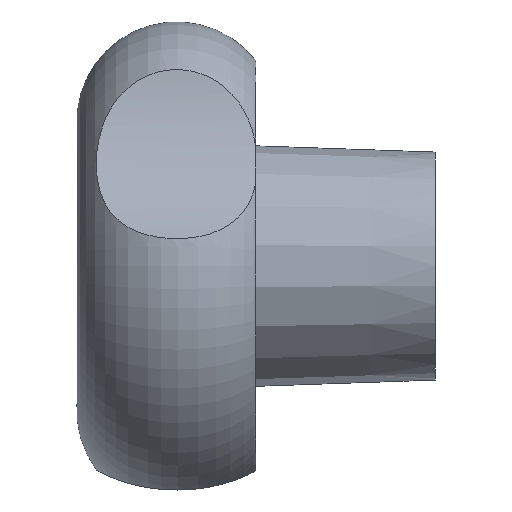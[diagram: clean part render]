
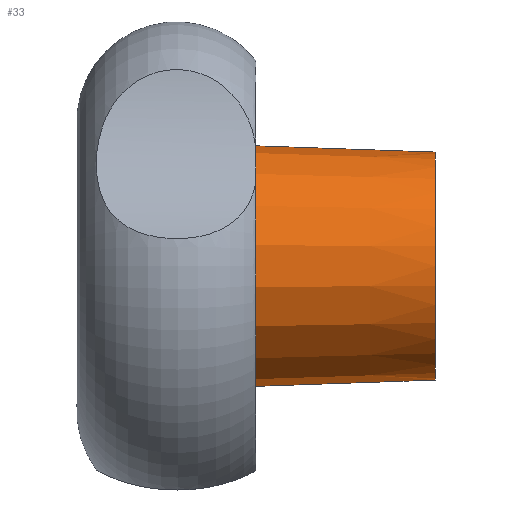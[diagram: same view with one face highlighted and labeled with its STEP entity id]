
A CAD part, left-side view. The second image highlights one B-rep face of the part: STEP entity #33.
In plain terms, the highlighted conical face has half-angle 2 degrees and reference radius 7.561 mm.
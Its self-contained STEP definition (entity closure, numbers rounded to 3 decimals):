
#7 = LINE ( 'NONE', #139, #825 ) ;
#26 = VERTEX_POINT ( 'NONE', #741 ) ;
#27 = DIRECTION ( 'NONE',  ( 0., 0.999, -0.035 ) ) ;
#33 = ADVANCED_FACE ( 'NONE', ( #805 ), #448, .T. ) ;
#35 = DIRECTION ( 'NONE',  ( 0., -1., 0. ) ) ;
#139 = CARTESIAN_POINT ( 'NONE',  ( 0., 16.052, 7.561 ) ) ;
#147 = EDGE_CURVE ( 'NONE', #376, #26, #321, .T. ) ;
#206 = VERTEX_POINT ( 'NONE', #232 ) ;
#232 = CARTESIAN_POINT ( 'NONE',  ( 0., 0., 7. ) ) ;
#311 = EDGE_CURVE ( 'NONE', #206, #1247, #7, .T. ) ;
#318 = DIRECTION ( 'NONE',  ( 0., 0., 1. ) ) ;
#321 = LINE ( 'NONE', #862, #611 ) ;
#376 = VERTEX_POINT ( 'NONE', #383 ) ;
#383 = CARTESIAN_POINT ( 'NONE',  ( 0., 0., -7. ) ) ;
#400 = DIRECTION ( 'NONE',  ( 0., 0., -1. ) ) ;
#446 = DIRECTION ( 'NONE',  ( 0., 0., -1. ) ) ;
#448 = CONICAL_SURFACE ( 'NONE', #645, 7.561, 0.035 ) ;
#475 = AXIS2_PLACEMENT_3D ( 'NONE', #1304, #35, #446 ) ;
#489 = CARTESIAN_POINT ( 'NONE',  ( 0., 16.052, 0. ) ) ;
#529 = DIRECTION ( 'NONE',  ( 0., 1., 0. ) ) ;
#611 = VECTOR ( 'NONE', #27, 1000. ) ;
#644 = ORIENTED_EDGE ( 'NONE', *, *, #1198, .F. ) ;
#645 = AXIS2_PLACEMENT_3D ( 'NONE', #1065, #529, #318 ) ;
#741 = CARTESIAN_POINT ( 'NONE',  ( 0., 16.052, -7.561 ) ) ;
#772 = DIRECTION ( 'NONE',  ( 0., 0.999, 0.035 ) ) ;
#791 = CIRCLE ( 'NONE', #1351, 7.561 ) ;
#805 = FACE_OUTER_BOUND ( 'NONE', #1078, .T. ) ;
#806 = DIRECTION ( 'NONE',  ( 0., -1., 0. ) ) ;
#825 = VECTOR ( 'NONE', #772, 1000. ) ;
#859 = CARTESIAN_POINT ( 'NONE',  ( 0., 16.052, 7.561 ) ) ;
#862 = CARTESIAN_POINT ( 'NONE',  ( 0., 16.052, -7.561 ) ) ;
#867 = CIRCLE ( 'NONE', #475, 7. ) ;
#905 = ORIENTED_EDGE ( 'NONE', *, *, #147, .F. ) ;
#1065 = CARTESIAN_POINT ( 'NONE',  ( 0., 16.052, 0. ) ) ;
#1078 = EDGE_LOOP ( 'NONE', ( #905, #644, #1313, #1145 ) ) ;
#1129 = EDGE_CURVE ( 'NONE', #1247, #26, #791, .T. ) ;
#1145 = ORIENTED_EDGE ( 'NONE', *, *, #1129, .T. ) ;
#1198 = EDGE_CURVE ( 'NONE', #206, #376, #867, .T. ) ;
#1247 = VERTEX_POINT ( 'NONE', #859 ) ;
#1304 = CARTESIAN_POINT ( 'NONE',  ( 0., 0., 0. ) ) ;
#1313 = ORIENTED_EDGE ( 'NONE', *, *, #311, .T. ) ;
#1351 = AXIS2_PLACEMENT_3D ( 'NONE', #489, #806, #400 ) ;
